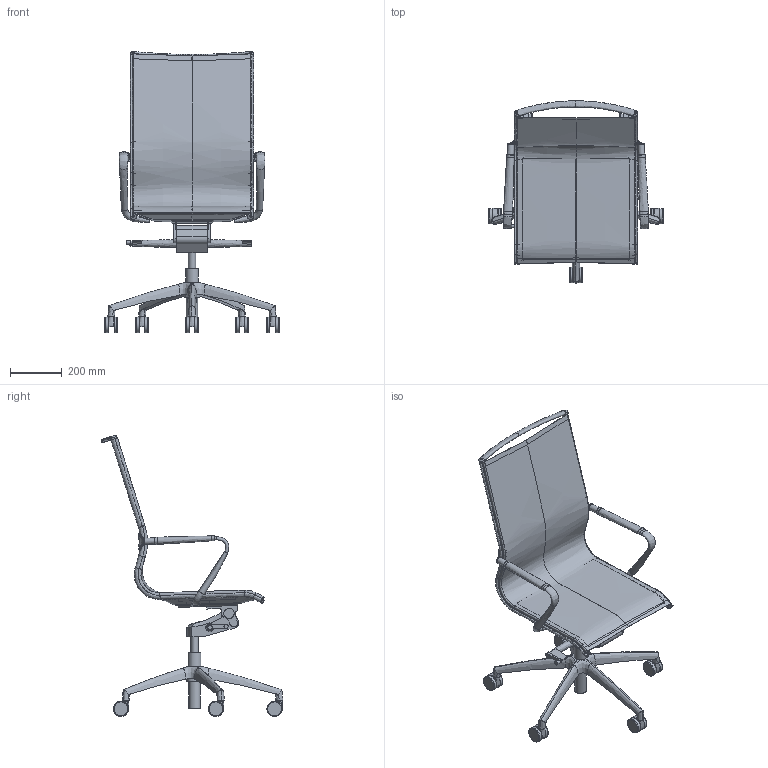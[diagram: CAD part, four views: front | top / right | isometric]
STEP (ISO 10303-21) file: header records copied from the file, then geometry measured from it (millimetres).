
FILE_DESCRIPTION(/* description */ (''),/* implementation_level */ '2;1');
FILE_NAME(/* name */ 'PL8866~1',/* time_stamp */ '2018-04-10T15:11:56+02:00',/* author */ (''),/* organization */ (''),/* preprocessor_version */ 'ST-DEVELOPER v16.5',/* originating_system */ '',/* authorisation */ '');
FILE_SCHEMA (('AUTOMOTIVE_DESIGN'));
Length unit declared in the file: millimetre
Products named in the file (1): Document
Bounding box: 677.7 x 706.27 x 1092.2 mm (x, y, z)
Volume: 9695815.9 mm3; surface area: 1846185.9 mm2
Topology: 15 solids, 45 shells, 419 faces, 1045 edges, 666 vertices
Faces by surface type: bspline 293, plane 126
Entity records: 27806 total; most frequent: CARTESIAN_POINT 21716, ORIENTED_EDGE 1891, EDGE_CURVE 1022, VERTEX_POINT 660, B_SPLINE_CURVE_WITH_KNOTS 456, EDGE_LOOP 423, ADVANCED_FACE 419, FACE_OUTER_BOUND 419
